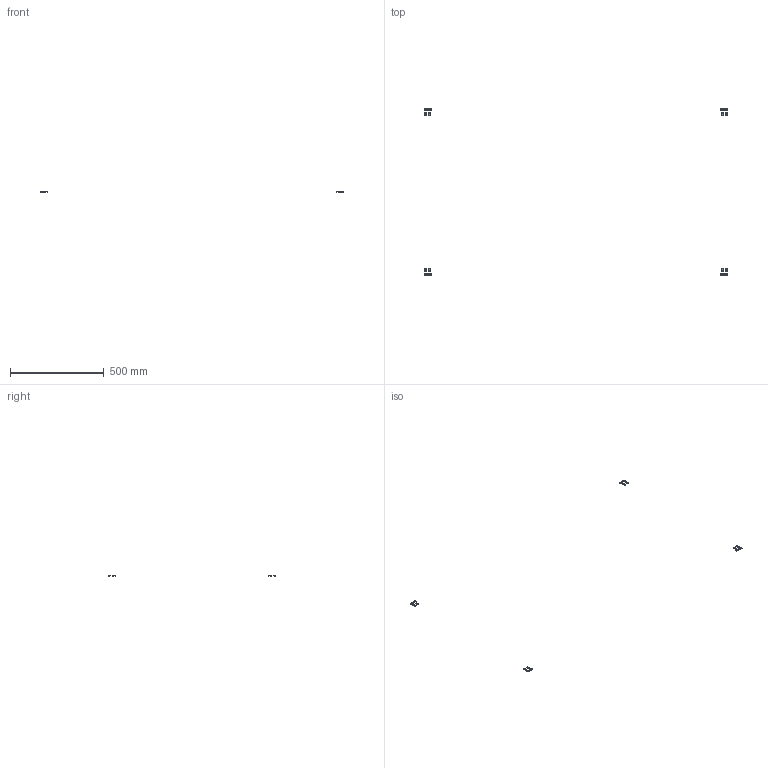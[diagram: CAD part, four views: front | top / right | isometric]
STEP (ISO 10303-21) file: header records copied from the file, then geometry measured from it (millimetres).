
FILE_DESCRIPTION(/* description */ (''),/* implementation_level */ '2;1');
FILE_NAME(/* name */ '2.frame-gantry#2.3#HNTPZ5-5',/* time_stamp */ '2014-12-01T20:11:43+01:00',/* author */ (''),/* organization */ (''),/* preprocessor_version */ 'ST-DEVELOPER v14',/* originating_system */ '',/* authorisation */ '');
FILE_SCHEMA (('AUTOMOTIVE_DESIGN'));
Length unit declared in the file: millimetre
Products named in the file (2): Document; nut tslot, post, M5
Assembly tree (8 placements, depth 2):
  Document
    nut tslot, post, M5  x8
Bounding box: 1612 x 888.3 x 3.8 mm (x, y, z)
Volume: 5040.3 mm3; surface area: 6712.4 mm2
Topology: 16 solids, 16 shells, 208 faces, 576 edges, 384 vertices
Faces by surface type: plane 176, bspline 32
Entity records: 8673 total; most frequent: CARTESIAN_POINT 4115, B_SPLINE_CURVE_WITH_KNOTS 900, ORIENTED_EDGE 648, PCURVE 648, DEFINITIONAL_REPRESENTATION 648, SURFACE_CURVE 324, EDGE_CURVE 324, VERTEX_POINT 216
